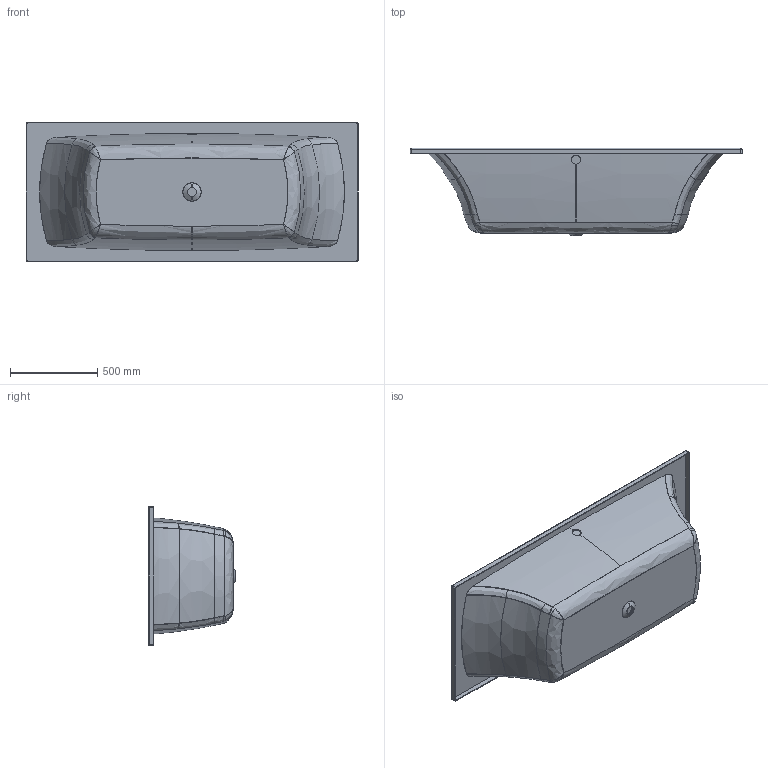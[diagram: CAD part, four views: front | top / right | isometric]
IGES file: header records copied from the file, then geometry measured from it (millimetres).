
Start section: SolidWorks IGES file using analytic representation for surfaces
Global section: file name: D:\Users\M.Szymanski\Desktop\Wanny\Largo\03. do przegrania\gotowe\WP_LA 190x80.IGS; native system: SolidWorks 2011; preprocessor: SolidWorks 2011; author: M.Szymanski; date: 180607.132346; units: millimetre
Bounding box: 1900 x 500.21 x 800 mm (x, y, z)
Surface area: 6029065.6 mm2 (no closed solid volume)
Topology: 0 solids, 0 shells, 132 faces, 1632 edges, 1622 vertices
Faces by surface type: bspline 104, revolution 28
